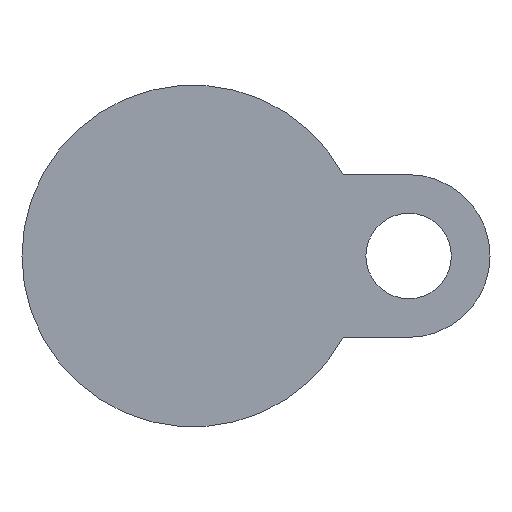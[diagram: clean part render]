
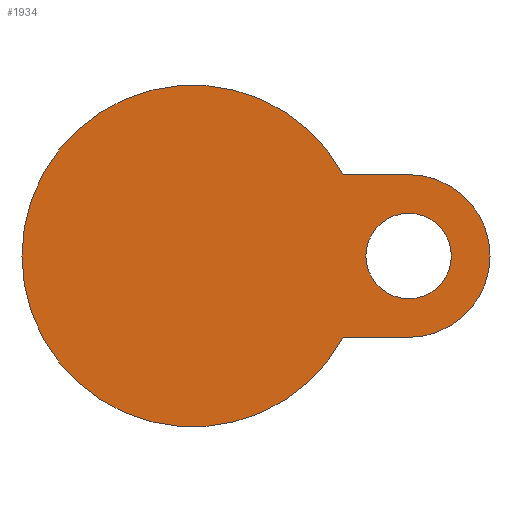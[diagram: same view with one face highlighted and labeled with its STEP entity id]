
A CAD part, front view. The second image highlights one B-rep face of the part: STEP entity #1934.
In plain terms, the highlighted planar face has unit normal (0, -1, 0).
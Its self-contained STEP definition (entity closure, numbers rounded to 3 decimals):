
#57 = CARTESIAN_POINT ( 'NONE',  ( 36.5, -12., 0. ) ) ;
#129 = DIRECTION ( 'NONE',  ( 0., -1., 0. ) ) ;
#205 = DIRECTION ( 'NONE',  ( 1., 0., 0. ) ) ;
#207 = AXIS2_PLACEMENT_3D ( 'NONE', #4019, #129, #205 ) ;
#349 = VECTOR ( 'NONE', #3714, 1000. ) ;
#401 = ORIENTED_EDGE ( 'NONE', *, *, #801, .F. ) ;
#544 = EDGE_CURVE ( 'NONE', #1971, #4092, #3252, .T. ) ;
#768 = DIRECTION ( 'NONE',  ( -1., 0., 0. ) ) ;
#796 = CARTESIAN_POINT ( 'NONE',  ( 26.5, -12., 0. ) ) ;
#800 = DIRECTION ( 'NONE',  ( 0., 1., 0. ) ) ;
#801 = EDGE_CURVE ( 'NONE', #2100, #4215, #1404, .T. ) ;
#871 = EDGE_CURVE ( 'NONE', #5092, #4970, #3805, .T. ) ;
#884 = AXIS2_PLACEMENT_3D ( 'NONE', #4233, #1753, #4260 ) ;
#886 = CARTESIAN_POINT ( 'NONE',  ( 26.5, -12., -10. ) ) ;
#891 = FACE_OUTER_BOUND ( 'NONE', #1507, .T. ) ;
#924 = CIRCLE ( 'NONE', #207, 10. ) ;
#969 = VERTEX_POINT ( 'NONE', #886 ) ;
#985 = DIRECTION ( 'NONE',  ( 1., 0., 0. ) ) ;
#1144 = LINE ( 'NONE', #5326, #3140 ) ;
#1193 = PLANE ( 'NONE',  #884 ) ;
#1280 = EDGE_CURVE ( 'NONE', #4092, #5438, #1661, .T. ) ;
#1403 = CARTESIAN_POINT ( 'NONE',  ( 26.5, -12., 0. ) ) ;
#1404 = CIRCLE ( 'NONE', #4870, 21. ) ;
#1499 = AXIS2_PLACEMENT_3D ( 'NONE', #3039, #3984, #2623 ) ;
#1507 = EDGE_LOOP ( 'NONE', ( #401, #4426, #1992, #2277, #2989, #1535 ) ) ;
#1523 = CARTESIAN_POINT ( 'NONE',  ( 21.25, -12., 0. ) ) ;
#1535 = ORIENTED_EDGE ( 'NONE', *, *, #2463, .F. ) ;
#1661 = LINE ( 'NONE', #2016, #349 ) ;
#1753 = DIRECTION ( 'NONE',  ( 0., -1., 0. ) ) ;
#1934 = ADVANCED_FACE ( 'NONE', ( #891, #4708 ), #1193, .T. ) ;
#1971 = VERTEX_POINT ( 'NONE', #57 ) ;
#1984 = CIRCLE ( 'NONE', #5199, 5.25 ) ;
#1992 = ORIENTED_EDGE ( 'NONE', *, *, #2797, .T. ) ;
#2016 = CARTESIAN_POINT ( 'NONE',  ( 11.379, -12., 10. ) ) ;
#2046 = DIRECTION ( 'NONE',  ( 0., -1., 0. ) ) ;
#2047 = DIRECTION ( 'NONE',  ( 1., 0., 0. ) ) ;
#2100 = VERTEX_POINT ( 'NONE', #3111 ) ;
#2113 = AXIS2_PLACEMENT_3D ( 'NONE', #4100, #2046, #5414 ) ;
#2277 = ORIENTED_EDGE ( 'NONE', *, *, #544, .T. ) ;
#2463 = EDGE_CURVE ( 'NONE', #4215, #5438, #5074, .T. ) ;
#2498 = CARTESIAN_POINT ( 'NONE',  ( -21., -12., 0. ) ) ;
#2544 = ORIENTED_EDGE ( 'NONE', *, *, #2866, .F. ) ;
#2623 = DIRECTION ( 'NONE',  ( -1., 0., 0. ) ) ;
#2797 = EDGE_CURVE ( 'NONE', #969, #1971, #924, .T. ) ;
#2841 = DIRECTION ( 'NONE',  ( 1., 0., 0. ) ) ;
#2866 = EDGE_CURVE ( 'NONE', #4970, #5092, #1984, .T. ) ;
#2978 = CARTESIAN_POINT ( 'NONE',  ( 31.75, -12., 0. ) ) ;
#2989 = ORIENTED_EDGE ( 'NONE', *, *, #1280, .T. ) ;
#3039 = CARTESIAN_POINT ( 'NONE',  ( 0., -12., 0. ) ) ;
#3111 = CARTESIAN_POINT ( 'NONE',  ( 18.466, -12., -10. ) ) ;
#3140 = VECTOR ( 'NONE', #2841, 1000. ) ;
#3252 = CIRCLE ( 'NONE', #4783, 10. ) ;
#3714 = DIRECTION ( 'NONE',  ( -1., 0., 0. ) ) ;
#3716 = CARTESIAN_POINT ( 'NONE',  ( 0., -12., 0. ) ) ;
#3805 = CIRCLE ( 'NONE', #2113, 5.25 ) ;
#3912 = EDGE_CURVE ( 'NONE', #2100, #969, #1144, .T. ) ;
#3984 = DIRECTION ( 'NONE',  ( 0., 1., 0. ) ) ;
#4019 = CARTESIAN_POINT ( 'NONE',  ( 26.5, -12., 0. ) ) ;
#4052 = CARTESIAN_POINT ( 'NONE',  ( 26.5, -12., 10. ) ) ;
#4092 = VERTEX_POINT ( 'NONE', #4052 ) ;
#4100 = CARTESIAN_POINT ( 'NONE',  ( 26.5, -12., 0. ) ) ;
#4215 = VERTEX_POINT ( 'NONE', #2498 ) ;
#4233 = CARTESIAN_POINT ( 'NONE',  ( 0., -12., 0. ) ) ;
#4260 = DIRECTION ( 'NONE',  ( 1., 0., 0. ) ) ;
#4426 = ORIENTED_EDGE ( 'NONE', *, *, #3912, .T. ) ;
#4708 = FACE_BOUND ( 'NONE', #5114, .T. ) ;
#4783 = AXIS2_PLACEMENT_3D ( 'NONE', #1403, #5275, #985 ) ;
#4802 = CARTESIAN_POINT ( 'NONE',  ( 18.466, -12., 10. ) ) ;
#4870 = AXIS2_PLACEMENT_3D ( 'NONE', #3716, #800, #768 ) ;
#4879 = ORIENTED_EDGE ( 'NONE', *, *, #871, .F. ) ;
#4970 = VERTEX_POINT ( 'NONE', #1523 ) ;
#5004 = DIRECTION ( 'NONE',  ( 0., -1., 0. ) ) ;
#5074 = CIRCLE ( 'NONE', #1499, 21. ) ;
#5092 = VERTEX_POINT ( 'NONE', #2978 ) ;
#5114 = EDGE_LOOP ( 'NONE', ( #4879, #2544 ) ) ;
#5199 = AXIS2_PLACEMENT_3D ( 'NONE', #796, #5004, #2047 ) ;
#5275 = DIRECTION ( 'NONE',  ( 0., -1., 0. ) ) ;
#5326 = CARTESIAN_POINT ( 'NONE',  ( 26.5, -12., -10. ) ) ;
#5414 = DIRECTION ( 'NONE',  ( 1., 0., 0. ) ) ;
#5438 = VERTEX_POINT ( 'NONE', #4802 ) ;
